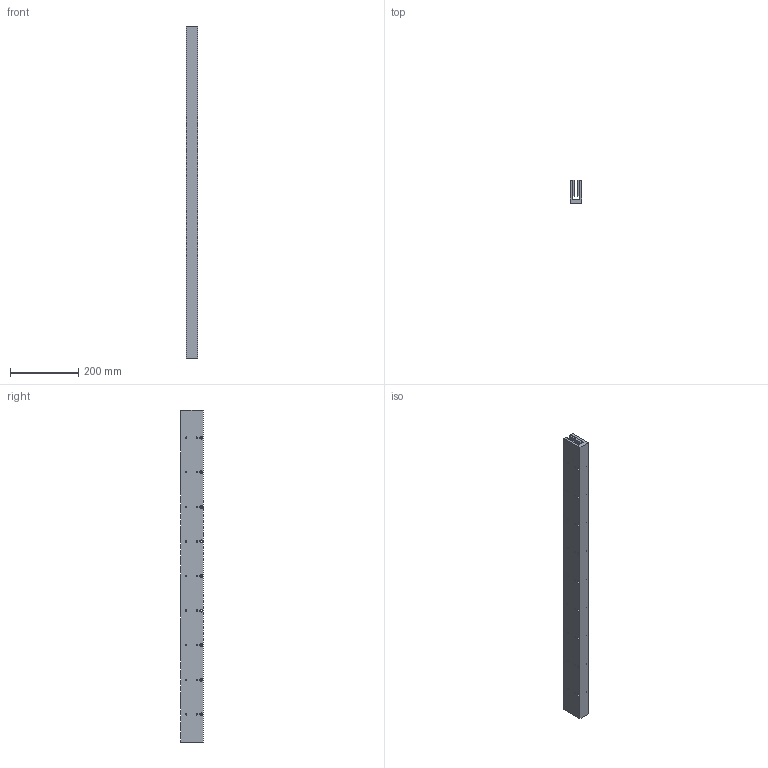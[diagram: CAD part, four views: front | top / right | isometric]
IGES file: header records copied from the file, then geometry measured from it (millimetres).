
Global section: file name: No Iges File Name specified; native system: Autodesk Inventor 2009; preprocessor: AutoDesk Inventor Iges Exporter R2009; author: je17857; date: 20091116.111550; units: inch
Bounding box: 34.29 x 67.31 x 975.36 mm (x, y, z)
Volume: 1459222.8 mm3; surface area: 366815.3 mm2
Topology: 1 solids, 1 shells, 486 faces, 1170 edges, 780 vertices
Faces by surface type: plane 342, bspline 144
